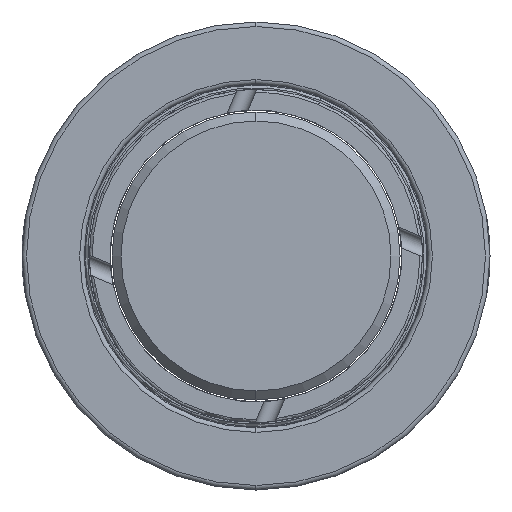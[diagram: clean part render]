
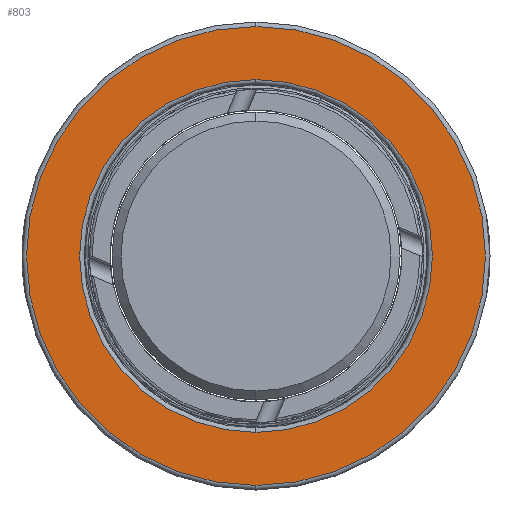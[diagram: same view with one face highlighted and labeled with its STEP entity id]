
A CAD part, left-side view. The second image highlights one B-rep face of the part: STEP entity #803.
In plain terms, the highlighted planar face has unit normal (-1, 0, 0).
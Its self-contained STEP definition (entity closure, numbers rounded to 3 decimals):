
#14 = EDGE_CURVE ( 'NONE', #6717, #5549, #2396, .T. ) ;
#269 = ORIENTED_EDGE ( 'NONE', *, *, #5379, .T. ) ;
#742 = DIRECTION ( 'NONE',  ( 0., 0., -1. ) ) ;
#803 = ADVANCED_FACE ( 'NONE', ( #6156, #2466 ), #4494, .F. ) ;
#856 = CARTESIAN_POINT ( 'NONE',  ( 0., 0., 0. ) ) ;
#1215 = ORIENTED_EDGE ( 'NONE', *, *, #4135, .T. ) ;
#1257 = EDGE_CURVE ( 'NONE', #6638, #4738, #4152, .T. ) ;
#1270 = DIRECTION ( 'NONE',  ( 1., 0., 0. ) ) ;
#1373 = CARTESIAN_POINT ( 'NONE',  ( 0., 0., 19.6 ) ) ;
#1381 = CARTESIAN_POINT ( 'NONE',  ( 0., 0., 0. ) ) ;
#1527 = CIRCLE ( 'NONE', #5536, 25.5 ) ;
#1578 = CARTESIAN_POINT ( 'NONE',  ( 0., 0., 0. ) ) ;
#1623 = DIRECTION ( 'NONE',  ( -1., 0., 0. ) ) ;
#1742 = DIRECTION ( 'NONE',  ( 1., 0., 0. ) ) ;
#1781 = CARTESIAN_POINT ( 'NONE',  ( 0., 0., 0. ) ) ;
#1996 = AXIS2_PLACEMENT_3D ( 'NONE', #1781, #1742, #2244 ) ;
#2085 = ORIENTED_EDGE ( 'NONE', *, *, #14, .T. ) ;
#2244 = DIRECTION ( 'NONE',  ( 0., 0., -1. ) ) ;
#2396 = CIRCLE ( 'NONE', #2538, 19.6 ) ;
#2466 = FACE_OUTER_BOUND ( 'NONE', #4950, .T. ) ;
#2538 = AXIS2_PLACEMENT_3D ( 'NONE', #2862, #1270, #742 ) ;
#2632 = DIRECTION ( 'NONE',  ( -1., 0., 0. ) ) ;
#2862 = CARTESIAN_POINT ( 'NONE',  ( 0., 0., 0. ) ) ;
#3617 = ORIENTED_EDGE ( 'NONE', *, *, #1257, .T. ) ;
#3911 = CARTESIAN_POINT ( 'NONE',  ( 0., 0., -19.6 ) ) ;
#3933 = CARTESIAN_POINT ( 'NONE',  ( 0., 0., 25.5 ) ) ;
#4051 = CIRCLE ( 'NONE', #1996, 19.6 ) ;
#4135 = EDGE_CURVE ( 'NONE', #4738, #6638, #1527, .T. ) ;
#4152 = CIRCLE ( 'NONE', #6336, 25.5 ) ;
#4164 = DIRECTION ( 'NONE',  ( 0., 0., -1. ) ) ;
#4180 = EDGE_LOOP ( 'NONE', ( #2085, #269 ) ) ;
#4494 = PLANE ( 'NONE',  #5598 ) ;
#4738 = VERTEX_POINT ( 'NONE', #3933 ) ;
#4950 = EDGE_LOOP ( 'NONE', ( #3617, #1215 ) ) ;
#5003 = DIRECTION ( 'NONE',  ( 1., 0., 0. ) ) ;
#5248 = DIRECTION ( 'NONE',  ( 0., 0., -1. ) ) ;
#5379 = EDGE_CURVE ( 'NONE', #5549, #6717, #4051, .T. ) ;
#5437 = CARTESIAN_POINT ( 'NONE',  ( 0., 0., -25.5 ) ) ;
#5536 = AXIS2_PLACEMENT_3D ( 'NONE', #1578, #1623, #5248 ) ;
#5549 = VERTEX_POINT ( 'NONE', #1373 ) ;
#5598 = AXIS2_PLACEMENT_3D ( 'NONE', #1381, #5003, #6072 ) ;
#6072 = DIRECTION ( 'NONE',  ( 0., 0., -1. ) ) ;
#6156 = FACE_BOUND ( 'NONE', #4180, .T. ) ;
#6336 = AXIS2_PLACEMENT_3D ( 'NONE', #856, #2632, #4164 ) ;
#6638 = VERTEX_POINT ( 'NONE', #5437 ) ;
#6717 = VERTEX_POINT ( 'NONE', #3911 ) ;
